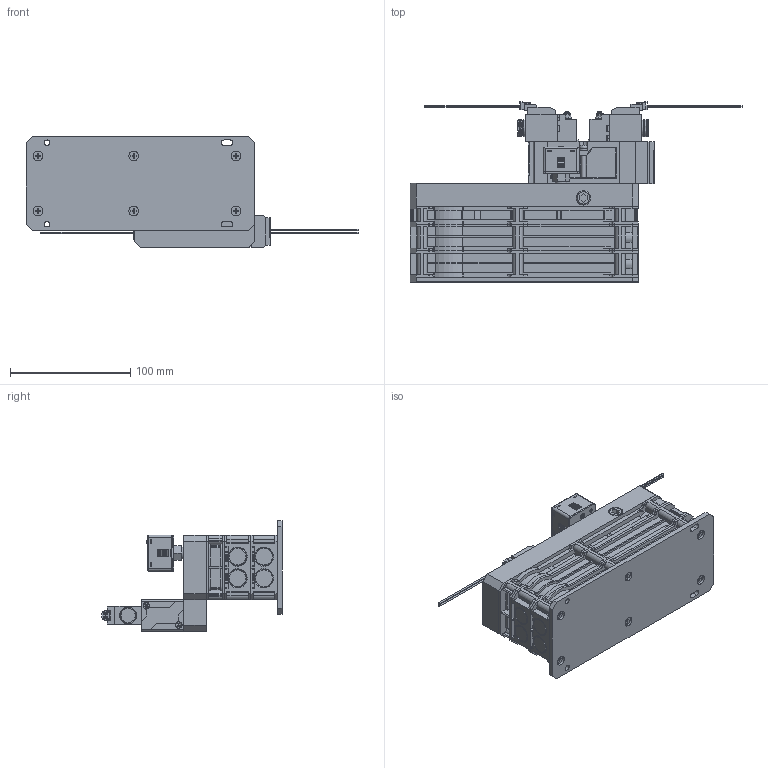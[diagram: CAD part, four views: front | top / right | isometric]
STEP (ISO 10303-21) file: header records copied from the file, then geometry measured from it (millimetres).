
FILE_DESCRIPTION(('STEP AP203'),'1');
FILE_NAME('BCVZ-3,4-SZR-V_3D.stp','2024-08-30T09:32:41',(' '),(' '),'Spatial InterOp 3D',' ',' ');
FILE_SCHEMA(('CONFIG_CONTROL_DESIGN'));
Length unit declared in the file: millimetre
Products named in the file (26): BCVZ-3,4-SZR-V; BCVZ-3,4-V-S 공급베이스; MPS-V60DL-R1-J-S1; CZS-U2_unit; CVZ-U1_unit; BCVZ-B_base; PG2_____; NONE; BCVZ-3,4-V 밸브; 볼트; NAUO8; NAUO5; NAUO12; NAUO9; NAUO10; NAUO11
Assembly tree (37 placements, depth 4):
  BCVZ-3,4-SZR-V
    BCVZ-3,4-V-S 공급베이스
    MPS-V60DL-R1-J-S1
    CZS-U2_unit
    CVZ-U1_unit  x2
    BCVZ-B_base
    BCVZ-3,4-V 밸브
      PG2_____
        NONE  x2
        NONE
      볼트
      볼트
      PG2_____
        NONE  x2
        NONE
      NAUO8  x2
      NAUO5  x2
      NAUO5  x2
      NAUO5  x2
      NAUO5  x2
      NAUO5  x2
      NAUO12  x2
      NAUO12  x2
      NAUO9  x2
      NAUO10
      NAUO11
Bounding box: 276.65 x 150.05 x 92.2 mm (x, y, z)
Volume: 889107 mm3; surface area: 225416 mm2
Topology: 34 solids, 34 shells, 2893 faces, 7899 edges, 5224 vertices
Faces by surface type: plane 1854, cylinder 918, cone 81, torus 34, bspline 6
Full cylindrical faces by diameter (mm): 1 x1, 2.459 x2, 3.3 x2, 4 x2, 4.134 x1, 4.5 x2, 6.7 x2, 8 x9, 8.647 x1, 11.676 x1, 12 x2, 30.864 x1
Entity records: 65909 total; most frequent: CARTESIAN_POINT 13127, ORIENTED_EDGE 10780, DIRECTION 10615, EDGE_CURVE 5390, LINE 3905, VECTOR 3905, VERTEX_POINT 3600, AXIS2_PLACEMENT_3D 3355
